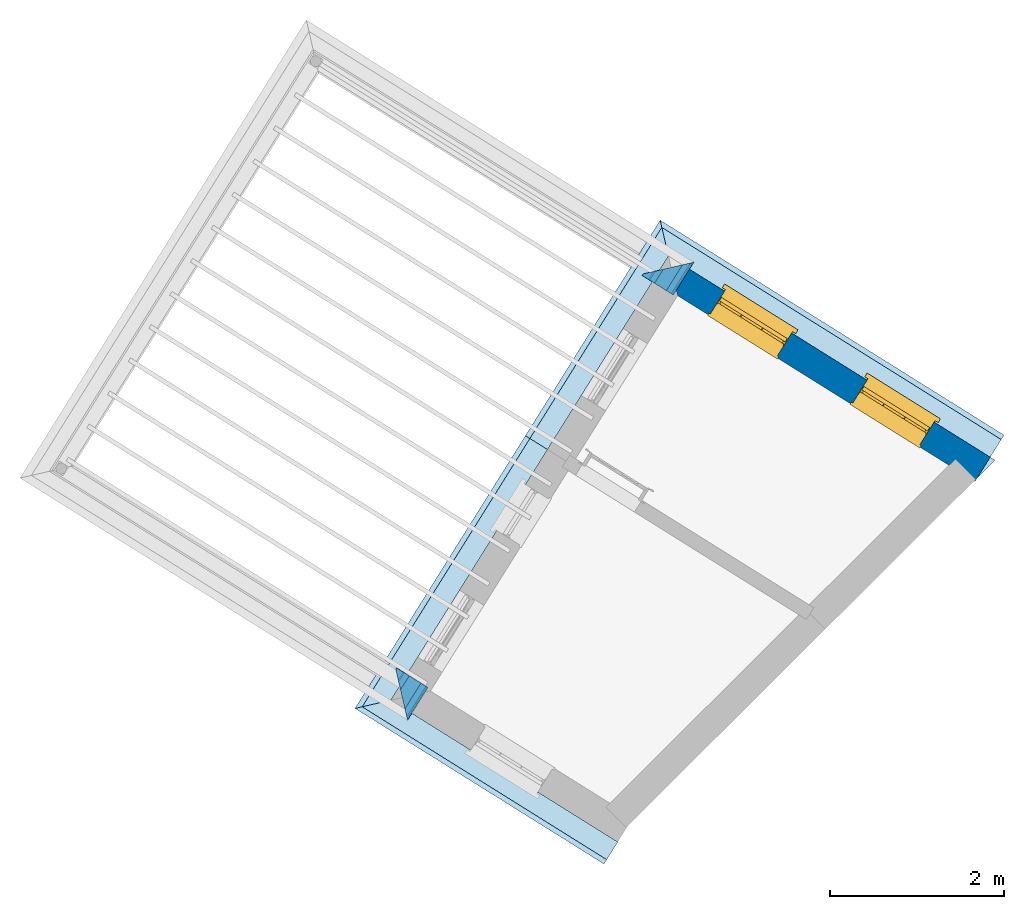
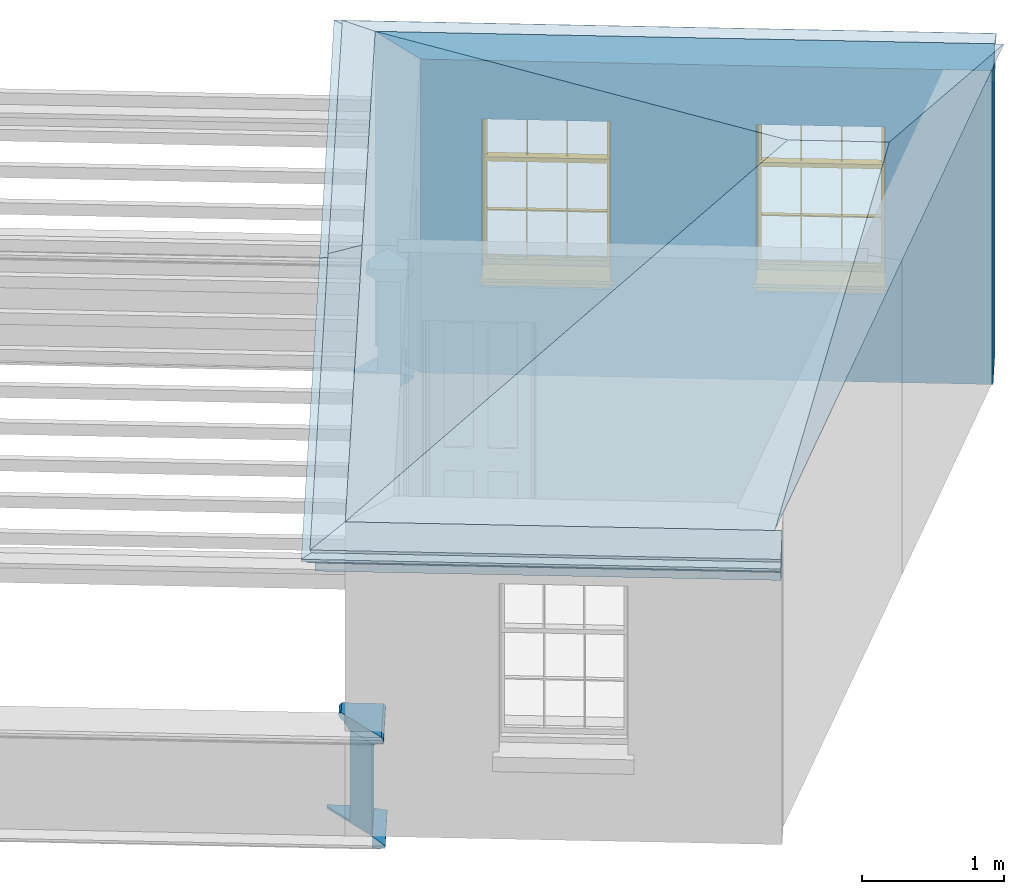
# One storey, part 6 of 6: 9 roofs, 7 walls, 2 windows, 2 openings.
"""IFC4 building model written with IfcOpenShell, lengths in metres."""

from ifc_helpers import new_model, si_unit, frame, origin, origin_with_axes, place, context, subcontext, project, spatial, polyline, outline, extrude, clip, halfspace, faceted_brep, source, transform, mapped, material, layer, layer_set, layer_usage, material_profile, profile_set, profile_usage, type_object, type_shapes, element, fill, save


model = new_model("IFC4")

# Units and contexts
model_context = context("Model", 3, world=origin_with_axes())
body_context = subcontext(model_context, "Body", "Model", "MODEL_VIEW")
ifc_project = project(units=[si_unit("PLANEANGLEUNIT", "RADIAN"), si_unit("MASSUNIT", "GRAM", prefix="KILO"), si_unit("FORCEUNIT", "NEWTON", prefix="KILO"), si_unit("LENGTHUNIT", "METRE"), si_unit("AREAUNIT", "SQUARE_METRE"), si_unit("VOLUMEUNIT", "CUBIC_METRE")], contexts=[model_context, model_context])

# Sites, building, storey
site_1_placement = place(None, origin_with_axes())
site_1 = spatial("IfcSite", under=ifc_project, at=site_1_placement, Name="Tamar")
site_2_placement = place(site_1_placement, origin_with_axes())
site_2 = spatial("IfcSite", under=site_1, at=site_2_placement, Name="Site plot-4", CompositionType="ELEMENT")
building_placement = place(None, origin_with_axes())
building = spatial("IfcBuilding", under=site_2, at=building_placement, Name="Building plot-4", CompositionType="ELEMENT")
storey_placement = place(None, frame((0.0, 0.0, 31.4), z_axis=(0.0, 0.0, 1.0), x_axis=(1.0, 0.0, 0.0)))
storey = spatial("IfcBuildingStorey", under=building, at=storey_placement, Name="plot-4 2", CompositionType="ELEMENT", Elevation=31.4)

# Wall, openings, windows
ifc_material = material(Name="Masonry")
ifc_layer = layer(ifc_material, 0.33, ventilated=False)
ifc_layer_set = layer_set([ifc_layer], Name="exterior_0.08_0.25")
ifc_layer_usage = layer_usage(ifc_layer_set, "AXIS2", "POSITIVE", -0.25)
wall_type_1 = type_object("IfcWallType", Name="exterior_0.08_0.25", PredefinedType="SOLIDWALL", material=ifc_layer_set)
wall_1_placement = place(storey_placement, frame((228.178329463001, 281.531399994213, 0.0), z_axis=(0.0, 0.0, 1.0), x_axis=(-0.847981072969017, 0.530026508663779, 0.0)))
wall_1 = element("IfcWall", 1, at=wall_1_placement, inside=storey, type_object=wall_type_1, material=ifc_layer_usage, Name="exterior", context=body_context, shape_type="SweptSolid", body=[
    extrude(outline(polyline([(-0.249999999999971, 0.0799999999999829), (-0.249999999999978, -0.250000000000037), (4.11736989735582, -0.250000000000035), (3.78736989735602, 0.0800000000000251), (-0.249999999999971, 0.0799999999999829)])), origin_with_axes(), (0.0, 0.0, 1.0), 2.7),
])
opening_1_placement = place(wall_1_placement, frame((0.511842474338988, 0.0, 0.75)))
opening_1 = element("IfcOpeningElement", 2, at=opening_1_placement, cuts=wall_1, Name="My Opening", ObjectType="Opening", context=body_context, shape_type="SweptSolid", body=[
    extrude(outline(polyline([(0.0, -0.269999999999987), (0.91, -0.270000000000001), (0.910000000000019, 1.09999999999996), (1.94289029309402e-14, 1.09999999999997), (0.0, -0.269999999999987)])), origin_with_axes(), (0.0, 0.0, 1.0), 1.445),
])
opening_2_placement = place(wall_1_placement, frame((2.44552742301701, 0.0, 0.75)))
opening_2 = element("IfcOpeningElement", 3, at=opening_2_placement, cuts=wall_1, Name="My Opening", ObjectType="Opening", context=body_context, shape_type="SweptSolid", body=[
    extrude(outline(polyline([(0.0, -0.270000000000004), (0.91, -0.270000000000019), (0.910000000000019, 1.09999999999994), (1.90958360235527e-14, 1.09999999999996), (0.0, -0.270000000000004)])), origin_with_axes(), (0.0, 0.0, 1.0), 1.445),
])
window_type = type_object("IfcWindowType", Name="sash_shorter", PartitioningType="DOUBLE_PANEL_HORIZONTAL", PredefinedType="NOTDEFINED")
shared_shape = source(origin(), body_context, "Body", "Brep", [
    faceted_brep([(0.876875, 0.145, 0.999097), (0.876875, 0.145, 1.411875), (0.9, 0.145, 1.435), (0.033125, 0.145, 1.411875), (0.033125, 0.145, 0.999097), (0.01, 0.145, 1.435), (0.033125, 0.115, 1.411875), (0.01, 0.115, 1.435), (0.033125, 0.115, 0.999097), (0.876875, 0.115, 1.411875), (0.876875, 0.115, 0.999097), (0.9, 0.115, 1.435), (0.033125, 0.145, 0.960972), (0.01, 0.145, 0.960972), (0.033125, 0.145, 0.548195), (0.876875, 0.145, 0.960972), (0.876875, 0.145, 0.548195), (0.9, 0.145, 0.960972), (0.876875, 0.145, 0.538195), (0.876875, 0.145, 0.125417), (0.9, 0.145, 0.077167), (0.033125, 0.145, 0.125417), (0.033125, 0.145, 0.538195), (0.01, 0.145, 0.077167), (0.9, 0.115, 0.960972), (0.01, 0.115, 0.960972), (-0.0425, 0.0, 0.01), (-0.0425, -0.05, 0.001667), (0.0, 0.0, 0.01), (0.9525, 0.0, 0.01), (0.91, 0.0, 0.01), (0.9525, -0.05, 0.001667), (-0.02, 0.33, 0.077167), (0.0, 0.33, 0.077167), (-0.02, 0.36, 0.077167), (0.0, 0.19, 0.077167), (0.01, 0.19, 0.077167), (0.91, 0.19, 0.077167), (0.91, 0.33, 0.077167), (0.9, 0.19, 0.077167), (0.93, 0.33, 0.077167), (0.93, 0.36, 0.077167), (0.01, 0.145, 0.999097), (0.01, 0.175, 0.999097), (0.9, 0.145, 0.999097), (0.9, 0.175, 0.999097), (0.876875, 0.175, 0.125417), (0.876875, 0.175, 0.538195), (0.9, 0.175, 0.077167), (0.876875, 0.175, 0.548195), (0.876875, 0.175, 0.960972), (0.033125, 0.175, 0.125417), (0.01, 0.175, 0.077167), (0.033125, 0.175, 0.538195), (0.033125, 0.175, 0.960972), (0.033125, 0.175, 0.548195), (-0.02, 0.33, 0.052167), (-0.02, 0.36, 0.052167), (0.93, 0.36, 0.052167), (0.93, 0.33, 0.052167), (0.91, 0.33, 0.052167), (0.0, 0.33, 0.052167), (0.91, 0.1, 0.026667), (0.0, 0.1, 0.026667), (-0.0425, -0.05, -0.123333), (0.9525, -0.05, -0.123333), (-0.0425, 0.0, -0.123333), (0.9525, 0.0, -0.123333), (0.01, 0.19, 1.435), (0.9, 0.19, 1.435), (0.0, 0.19, 1.445), (0.91, 0.19, 1.445), (0.01, 0.1, 0.077167), (0.9, 0.1, 0.077167), (0.592292, 0.145, 0.125417), (0.592292, 0.175, 0.125417), (0.317708, 0.175, 0.125417), (0.317708, 0.145, 0.125417), (0.592292, 0.145, 0.548195), (0.317708, 0.145, 0.548195), (0.317708, 0.145, 0.538195), (0.592292, 0.145, 0.538195), (0.592292, 0.175, 0.548195), (0.317708, 0.175, 0.548195), (0.602292, 0.175, 0.548195), (0.602292, 0.145, 0.548195), (0.317708, 0.175, 0.538195), (0.307708, 0.175, 0.125417), (0.307708, 0.175, 0.538195), (0.602292, 0.175, 0.538195), (0.602292, 0.175, 0.125417), (0.592292, 0.175, 0.538195), (0.307708, 0.175, 0.548195), (0.317708, 0.175, 0.960972), (0.307708, 0.175, 0.960972), (0.602292, 0.175, 0.960972), (0.592292, 0.175, 0.960972), (0.307708, 0.145, 0.538195), (0.307708, 0.145, 0.125417), (0.307708, 0.145, 0.548195), (0.307708, 0.145, 0.960972), (0.592292, 0.145, 0.960972), (0.317708, 0.145, 0.960972), (0.602292, 0.145, 0.960972), (0.602292, 0.145, 0.538195), (0.602292, 0.145, 0.125417), (0.317708, 0.115, 1.411875), (0.307708, 0.115, 1.411875), (0.307708, 0.115, 0.999097), (0.317708, 0.115, 0.999097), (0.602292, 0.115, 1.411875), (0.592292, 0.115, 1.411875), (0.592292, 0.115, 0.999097), (0.602292, 0.115, 0.999097), (0.317708, 0.145, 0.999097), (0.307708, 0.145, 0.999097), (0.307708, 0.145, 1.411875), (0.317708, 0.145, 1.411875), (0.602292, 0.145, 0.999097), (0.592292, 0.145, 0.999097), (0.592292, 0.145, 1.411875), (0.602292, 0.145, 1.411875), (0.91, 0.1, 1.445), (0.9, 0.1, 1.435), (0.01, 0.1, 1.435), (0.0, 0.1, 1.445), (0.91, 0.0, 0.0), (0.0, 0.0, 0.0), (0.91, 0.33, 0.0), (0.0, 0.33, 0.0)], [[[0, 1, 2]], [[3, 4, 5]], [[6, 7, 8]], [[9, 10, 11]], [[12, 13, 14]], [[15, 16, 17]], [[18, 19, 20]], [[21, 22, 23]], [[24, 15, 17]], [[13, 12, 25]], [[26, 27, 28]], [[29, 30, 31]], [[32, 33, 34]], [[35, 36, 33]], [[37, 38, 39]], [[40, 41, 38]], [[42, 4, 43]], [[44, 45, 0]], [[46, 47, 48]], [[49, 50, 45]], [[51, 52, 53]], [[54, 55, 43]], [[38, 33, 36, 39]], [[41, 34, 33, 38]], [[56, 32, 34, 57]], [[57, 34, 41, 58]], [[58, 41, 40, 59]], [[57, 58, 60, 61]], [[52, 48, 39, 36]], [[62, 63, 28, 30]], [[27, 31, 30, 28]], [[27, 64, 65, 31]], [[66, 67, 65, 64]], [[2, 5, 68, 69]], [[68, 70, 71, 69]], [[20, 23, 72, 73]], [[73, 72, 63, 62]], [[74, 75, 76, 77]], [[78, 79, 80, 81]], [[78, 82, 83, 79]], [[16, 49, 84, 85]], [[86, 76, 87, 88]], [[89, 90, 75, 91]], [[92, 88, 53, 55]], [[82, 91, 86, 83]], [[93, 83, 92, 94]], [[95, 84, 82, 96]], [[89, 84, 49, 47]], [[97, 88, 87, 98]], [[22, 53, 88, 97]], [[81, 91, 75, 74]], [[80, 86, 91, 81]], [[77, 76, 86, 80]], [[99, 92, 55, 14]], [[100, 94, 92, 99]], [[101, 96, 82, 78]], [[79, 83, 93, 102]], [[85, 84, 95, 103]], [[104, 89, 47, 18]], [[105, 90, 89, 104]], [[104, 18, 16, 85]], [[80, 97, 98, 77]], [[104, 81, 74, 105]], [[103, 101, 78, 85]], [[99, 14, 22, 97]], [[102, 100, 99, 79]], [[106, 107, 108, 109]], [[110, 111, 112, 113]], [[114, 115, 116, 117]], [[118, 119, 120, 121]], [[107, 116, 115, 108]], [[111, 120, 119, 112]], [[109, 114, 117, 106]], [[113, 118, 121, 110]], [[85, 78, 81, 104]], [[84, 89, 91, 82]], [[83, 86, 88, 92]], [[79, 99, 97, 80]], [[109, 112, 119, 114]], [[102, 93, 96, 101]], [[106, 117, 120, 111]], [[98, 87, 51, 21]], [[6, 3, 116, 107]], [[110, 121, 1, 9]], [[19, 46, 90, 105]], [[26, 66, 64, 27]], [[29, 31, 65, 67]], [[25, 24, 112, 109]], [[11, 7, 106, 111]], [[75, 48, 52, 76]], [[43, 45, 96, 93]], [[45, 43, 114, 119]], [[5, 2, 120, 117]], [[24, 25, 102, 101]], [[42, 5, 4]], [[2, 44, 0]], [[49, 45, 48, 47]], [[52, 43, 55, 53]], [[14, 13, 23, 22]], [[20, 17, 16, 18]], [[24, 11, 10]], [[25, 8, 7]], [[8, 4, 3, 6]], [[9, 1, 0, 10]], [[15, 50, 49, 16]], [[18, 47, 46, 19]], [[21, 51, 53, 22]], [[14, 55, 54, 12]], [[44, 2, 69, 45]], [[68, 5, 42, 43]], [[36, 35, 70, 68]], [[39, 69, 71, 37]], [[62, 122, 123, 73]], [[63, 72, 124, 125]], [[8, 108, 115, 4]], [[113, 10, 0, 118]], [[94, 100, 12, 54]], [[17, 20, 73, 24]], [[72, 23, 13, 25]], [[52, 36, 68, 43]], [[69, 39, 48, 45]], [[11, 24, 73, 123]], [[7, 124, 72, 25]], [[23, 77, 98]], [[98, 21, 23]], [[105, 74, 20]], [[20, 19, 105]], [[20, 74, 77, 23]], [[113, 112, 24]], [[24, 10, 113]], [[25, 109, 108]], [[108, 8, 25]], [[110, 9, 11]], [[11, 111, 110]], [[7, 6, 107]], [[107, 106, 7]], [[5, 117, 116]], [[116, 3, 5]], [[121, 120, 2]], [[2, 1, 121]], [[11, 123, 124, 7]], [[122, 125, 124, 123]], [[43, 93, 94]], [[94, 54, 43]], [[96, 45, 95]], [[50, 95, 45]], [[15, 103, 95, 50]], [[48, 75, 90]], [[90, 46, 48]], [[87, 76, 52]], [[52, 51, 87]], [[103, 15, 24]], [[24, 101, 103]], [[100, 102, 25]], [[25, 12, 100]], [[115, 114, 43]], [[43, 4, 115]], [[118, 0, 45]], [[45, 119, 118]], [[71, 70, 125, 122]], [[70, 35, 63, 125]], [[122, 62, 37, 71]], [[126, 67, 66, 127]], [[60, 58, 59]], [[38, 60, 59, 40]], [[61, 56, 57]], [[32, 56, 61, 33]], [[61, 60, 128, 129]], [[62, 60, 38, 37]], [[126, 128, 60, 62]], [[33, 61, 63, 35]], [[61, 129, 127, 63]], [[128, 126, 127, 129]], [[28, 127, 66, 26]], [[63, 127, 28]], [[29, 67, 126, 30]], [[30, 126, 62]]]),
])
type_shapes(window_type, [shared_shape])
window_1_placement = place(storey_placement, frame((227.887403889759, 282.031644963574, 0.75), z_axis=(0.0, 0.0, 1.0), x_axis=(-0.771662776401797, 0.482324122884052, 0.0)))
window_1 = element("IfcWindow", 4, at=window_1_placement, inside=storey, type_object=window_type, Name="circulation outside window", OverallHeight=1.445, OverallWidth=0.91, context=body_context, shape_type="MappedRepresentation", body=[
    mapped(shared_shape, transform((0.0, 0.0, 0.0), scale=1.0)),
])
fill(opening_1, window_1)
window_2_placement = place(storey_placement, frame((226.247675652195, 283.056549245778, 0.75), z_axis=(0.0, 0.0, 1.0), x_axis=(-0.771662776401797, 0.482324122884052, 0.0)))
window_2 = element("IfcWindow", 5, at=window_2_placement, inside=storey, type_object=window_type, Name="circulation outside window", OverallHeight=1.445, OverallWidth=0.91, context=body_context, shape_type="MappedRepresentation", body=[
    mapped(shared_shape, transform((0.0, 0.0, 0.0), scale=1.0)),
])
fill(opening_2, window_2)

# Walls
ifc_material_profile_1 = material_profile(None, outline(polyline([(0.25, 0.0), (0.25, 0.795), (0.09, 0.795), (0.09, 0.02), (-0.08, 0.02), (-0.08, 0.0), (0.25, 0.0)])))
ifc_profile_set_1 = profile_set([ifc_material_profile_1])
ifc_profile_usage_1 = profile_usage(ifc_profile_set_1)
wall_type_2 = type_object("IfcWallType", Name="parapet_0", PredefinedType="PARAPET", material=ifc_profile_set_1)
wall_2_placement = place(storey_placement, frame((225.166025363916, 284.593497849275, 0.0), z_axis=(-0.530026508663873, -0.847981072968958, 0.0), x_axis=(0.847981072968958, -0.530026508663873, 0.0)))
element("IfcWall", 6, at=wall_2_placement, inside=storey, type_object=wall_type_2, material=ifc_profile_usage_1, Name="parapet_0", context=body_context, shape_type="Clipping", body=[
    clip(clip(extrude(outline(polyline([(0.25, 0.0), (0.25, 0.795), (0.09, 0.795), (0.09, 0.02), (-0.08, 0.02), (-0.08, 0.0), (0.25, 0.0)])), origin_with_axes(), (0.0, 0.0, 1.0), 2.09999999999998), halfspace(frame((0.0, 0.0, 1.09999999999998), z_axis=(-8.94301653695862e-15, 0.0, -1.0), x_axis=(0.0, 1.0, 0.0)), True)), halfspace(frame((0.0, 0.0, 1.0), z_axis=(-0.707106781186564, 0.0, -0.707106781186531), x_axis=(0.0, 1.0, 0.0)), False)),
])
ifc_profile_usage_2 = profile_usage(ifc_profile_set_1)
wall_3_placement = place(storey_placement, frame((222.2890629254, 279.990690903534, 0.0), z_axis=(-0.530026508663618, -0.847981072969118, 0.0), x_axis=(0.847981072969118, -0.530026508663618, 0.0)))
element("IfcWall", 7, at=wall_3_placement, inside=storey, type_object=wall_type_2, material=ifc_profile_usage_2, Name="parapet_0", context=body_context, shape_type="Clipping", body=[
    clip(clip(extrude(outline(polyline([(0.25, 0.0), (0.25, 0.795), (0.09, 0.795), (0.09, 0.02), (-0.08, 0.02), (-0.08, 0.0), (0.25, 0.0)])), origin_with_axes(), (0.0, 0.0, 1.0), 2.10000000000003), halfspace(frame((0.0, 0.0, 1.10000000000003), z_axis=(0.707106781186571, 0.0, -0.707106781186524), x_axis=(0.0, 1.0, 0.0)), True)), halfspace(frame((0.0, 0.0, 1.0), z_axis=(2.4141629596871e-14, 0.0, -1.0), x_axis=(0.0, 1.0, 0.0)), False)),
])
ifc_material_profile_2 = material_profile(None, outline(polyline([(0.265, 0.795), (0.268, 0.807), (0.274, 0.816), (0.283, 0.822), (0.295, 0.825), (0.295, 0.84), (0.305, 0.84), (0.317, 0.842), (0.326, 0.849), (0.333, 0.858), (0.335, 0.87), (0.333, 0.882), (0.326, 0.891), (0.317, 0.898), (0.305, 0.9), (0.035, 0.9), (0.023, 0.898), (0.014, 0.891), (0.007, 0.882), (0.005, 0.87), (0.007, 0.858), (0.014, 0.849), (0.023, 0.842), (0.035, 0.84), (0.045, 0.84), (0.045, 0.825), (0.057, 0.822), (0.066, 0.816), (0.072, 0.807), (0.075, 0.795), (0.265, 0.795)])))
ifc_profile_set_2 = profile_set([ifc_material_profile_2])
ifc_profile_usage_3 = profile_usage(ifc_profile_set_2)
wall_type_3 = type_object("IfcWallType", Name="parapet_1", PredefinedType="PARAPET", material=ifc_profile_set_2)
wall_4_placement = place(storey_placement, frame((225.166025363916, 284.593497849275, 0.0), z_axis=(-0.530026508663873, -0.847981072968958, 0.0), x_axis=(0.847981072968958, -0.530026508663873, 0.0)))
element("IfcWall", 8, at=wall_4_placement, inside=storey, type_object=wall_type_3, material=ifc_profile_usage_3, Name="parapet_1", context=body_context, shape_type="Clipping", body=[
    clip(clip(extrude(outline(polyline([(0.265, 0.795), (0.268, 0.807), (0.274, 0.816), (0.283, 0.822), (0.295, 0.825), (0.295, 0.84), (0.305, 0.84), (0.317, 0.842), (0.326, 0.849), (0.333, 0.858), (0.335, 0.87), (0.333, 0.882), (0.326, 0.891), (0.317, 0.898), (0.305, 0.9), (0.035, 0.9), (0.023, 0.898), (0.014, 0.891), (0.007, 0.882), (0.005, 0.87), (0.007, 0.858), (0.014, 0.849), (0.023, 0.842), (0.035, 0.84), (0.045, 0.84), (0.045, 0.825), (0.057, 0.822), (0.066, 0.816), (0.072, 0.807), (0.075, 0.795), (0.265, 0.795)])), origin_with_axes(), (0.0, 0.0, 1.0), 2.09999999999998), halfspace(frame((0.0, 0.0, 1.09999999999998), z_axis=(-8.94301653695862e-15, 0.0, -1.0), x_axis=(0.0, 1.0, 0.0)), True)), halfspace(frame((0.0, 0.0, 1.0), z_axis=(-0.707106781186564, 0.0, -0.707106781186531), x_axis=(0.0, 1.0, 0.0)), False)),
])
ifc_profile_usage_4 = profile_usage(ifc_profile_set_2)
wall_5_placement = place(storey_placement, frame((222.2890629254, 279.990690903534, 0.0), z_axis=(-0.530026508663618, -0.847981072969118, 0.0), x_axis=(0.847981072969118, -0.530026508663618, 0.0)))
element("IfcWall", 9, at=wall_5_placement, inside=storey, type_object=wall_type_3, material=ifc_profile_usage_4, Name="parapet_1", context=body_context, shape_type="Clipping", body=[
    clip(clip(extrude(outline(polyline([(0.265, 0.795), (0.268, 0.807), (0.274, 0.816), (0.283, 0.822), (0.295, 0.825), (0.295, 0.84), (0.305, 0.84), (0.317, 0.842), (0.326, 0.849), (0.333, 0.858), (0.335, 0.87), (0.333, 0.882), (0.326, 0.891), (0.317, 0.898), (0.305, 0.9), (0.035, 0.9), (0.023, 0.898), (0.014, 0.891), (0.007, 0.882), (0.005, 0.87), (0.007, 0.858), (0.014, 0.849), (0.023, 0.842), (0.035, 0.84), (0.045, 0.84), (0.045, 0.825), (0.057, 0.822), (0.066, 0.816), (0.072, 0.807), (0.075, 0.795), (0.265, 0.795)])), origin_with_axes(), (0.0, 0.0, 1.0), 2.10000000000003), halfspace(frame((0.0, 0.0, 1.10000000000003), z_axis=(0.707106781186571, 0.0, -0.707106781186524), x_axis=(0.0, 1.0, 0.0)), True)), halfspace(frame((0.0, 0.0, 1.0), z_axis=(2.4141629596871e-14, 0.0, -1.0), x_axis=(0.0, 1.0, 0.0)), False)),
])
ifc_material_profile_3 = material_profile(None, outline(polyline([(0.25, -0.1), (0.265, -0.1), (0.265, -0.085), (0.278, -0.084), (0.289, -0.081), (0.301, -0.074), (0.309, -0.065), (0.315, -0.055), (0.324, -0.044), (0.334, -0.038), (0.345, -0.035), (0.345, -0.015), (0.25, 0.0), (0.25, -0.1)])))
ifc_profile_set_3 = profile_set([ifc_material_profile_3])
ifc_profile_usage_5 = profile_usage(ifc_profile_set_3)
wall_type_4 = type_object("IfcWallType", Name="parapet_2", PredefinedType="PARAPET", material=ifc_profile_set_3)
wall_6_placement = place(storey_placement, frame((225.166025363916, 284.593497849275, 0.0), z_axis=(-0.530026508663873, -0.847981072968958, 0.0), x_axis=(0.847981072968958, -0.530026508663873, 0.0)))
element("IfcWall", 10, at=wall_6_placement, inside=storey, type_object=wall_type_4, material=ifc_profile_usage_5, Name="parapet_2", context=body_context, shape_type="Clipping", body=[
    clip(clip(extrude(outline(polyline([(0.25, -0.1), (0.265, -0.1), (0.265, -0.085), (0.278, -0.084), (0.289, -0.081), (0.301, -0.074), (0.309, -0.065), (0.315, -0.055), (0.324, -0.044), (0.334, -0.038), (0.345, -0.035), (0.345, -0.015), (0.25, 0.0), (0.25, -0.1)])), origin_with_axes(), (0.0, 0.0, 1.0), 2.09999999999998), halfspace(frame((0.0, 0.0, 1.09999999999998), z_axis=(-8.94301653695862e-15, 0.0, -1.0), x_axis=(0.0, 1.0, 0.0)), True)), halfspace(frame((0.0, 0.0, 1.0), z_axis=(-0.707106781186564, 0.0, -0.707106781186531), x_axis=(0.0, 1.0, 0.0)), False)),
])
ifc_profile_usage_6 = profile_usage(ifc_profile_set_3)
wall_7_placement = place(storey_placement, frame((222.2890629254, 279.990690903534, 0.0), z_axis=(-0.530026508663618, -0.847981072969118, 0.0), x_axis=(0.847981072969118, -0.530026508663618, 0.0)))
element("IfcWall", 11, at=wall_7_placement, inside=storey, type_object=wall_type_4, material=ifc_profile_usage_6, Name="parapet_2", context=body_context, shape_type="Clipping", body=[
    clip(clip(extrude(outline(polyline([(0.25, -0.1), (0.265, -0.1), (0.265, -0.085), (0.278, -0.084), (0.289, -0.081), (0.301, -0.074), (0.309, -0.065), (0.315, -0.055), (0.324, -0.044), (0.334, -0.038), (0.345, -0.035), (0.345, -0.015), (0.25, 0.0), (0.25, -0.1)])), origin_with_axes(), (0.0, 0.0, 1.0), 2.10000000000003), halfspace(frame((0.0, 0.0, 1.10000000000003), z_axis=(0.707106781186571, 0.0, -0.707106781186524), x_axis=(0.0, 1.0, 0.0)), True)), halfspace(frame((0.0, 0.0, 1.0), z_axis=(2.4141629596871e-14, 0.0, -1.0), x_axis=(0.0, 1.0, 0.0)), False)),
])

# Roofs
ifc_material_profile_4 = material_profile(None, outline(polyline([(0.25, -0.11), (0.25, -0.33), (0.265, -0.33), (0.268, -0.318), (0.274, -0.309), (0.283, -0.303), (0.295, -0.3), (0.295, -0.285), (0.455, -0.285), (0.455, -0.205), (0.47, -0.205), (0.47, -0.19), (0.483, -0.189), (0.494, -0.186), (0.506, -0.179), (0.514, -0.17), (0.52, -0.16), (0.529, -0.149), (0.539, -0.143), (0.55, -0.14), (0.55, -0.12), (0.48, -0.11), (0.25, -0.11)])))
ifc_profile_set_4 = profile_set([ifc_material_profile_4])
ifc_profile_usage_7 = profile_usage(ifc_profile_set_4)
roof_type_1 = type_object("IfcRoofType", Name="eaves_0", PredefinedType="FREEFORM", material=ifc_profile_set_4)
roof_1_placement = place(storey_placement, frame((224.050891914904, 284.111235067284, 2.7), z_axis=(0.847981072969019, -0.530026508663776, 0.0), x_axis=(0.530026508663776, 0.847981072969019, 0.0)))
element("IfcRoof", 12, at=roof_1_placement, inside=storey, type_object=roof_type_1, material=ifc_profile_usage_7, Name="eaves_0", context=body_context, shape_type="Clipping", body=[
    clip(clip(extrude(outline(polyline([(0.25, -0.11), (0.25, -0.33), (0.265, -0.33), (0.268, -0.318), (0.274, -0.309), (0.283, -0.303), (0.295, -0.3), (0.295, -0.285), (0.455, -0.285), (0.455, -0.205), (0.47, -0.205), (0.47, -0.19), (0.483, -0.189), (0.494, -0.186), (0.506, -0.179), (0.514, -0.17), (0.52, -0.16), (0.529, -0.149), (0.539, -0.143), (0.55, -0.14), (0.55, -0.12), (0.48, -0.11), (0.25, -0.11)])), origin_with_axes(), (0.0, 0.0, 1.0), 6.11736989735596), halfspace(frame((0.0, 0.0, 5.11736989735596), z_axis=(1.81464252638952e-14, 0.0, -1.0), x_axis=(0.0, 1.0, 0.0)), True)), halfspace(frame((0.0, 0.0, 1.0), z_axis=(-0.707106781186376, 0.0, -0.707106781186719), x_axis=(0.0, 1.0, 0.0)), False)),
])
ifc_profile_usage_8 = profile_usage(ifc_profile_set_4)
roof_2_placement = place(storey_placement, frame((223.109560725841, 280.718516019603, 2.7), z_axis=(0.530026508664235, 0.847981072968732, 0.0), x_axis=(-0.847981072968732, 0.530026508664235, 0.0)))
element("IfcRoof", 13, at=roof_2_placement, inside=storey, type_object=roof_type_1, material=ifc_profile_usage_8, Name="eaves_0", context=body_context, shape_type="Clipping", body=[
    clip(clip(extrude(outline(polyline([(0.25, -0.11), (0.25, -0.33), (0.265, -0.33), (0.268, -0.318), (0.274, -0.309), (0.283, -0.303), (0.295, -0.3), (0.295, -0.285), (0.455, -0.285), (0.455, -0.205), (0.47, -0.205), (0.47, -0.19), (0.483, -0.189), (0.494, -0.186), (0.506, -0.179), (0.514, -0.17), (0.52, -0.16), (0.529, -0.149), (0.539, -0.143), (0.55, -0.14), (0.55, -0.12), (0.48, -0.11), (0.25, -0.11)])), origin_with_axes(), (0.0, 0.0, 1.0), 4.37589202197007), halfspace(frame((0.0, 0.0, 3.37589202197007), z_axis=(0.707106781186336, 0.0, -0.707106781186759), x_axis=(0.0, 1.0, 0.0)), True)), halfspace(frame((0.0, 0.0, 1.0), z_axis=(-2.5818406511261e-14, 0.0, -1.0), x_axis=(0.0, 1.0, 0.0)), False)),
])
ifc_profile_usage_9 = profile_usage(ifc_profile_set_4)
roof_3_placement = place(storey_placement, frame((221.438881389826, 278.045622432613, 2.7), z_axis=(0.53002650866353, 0.847981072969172, 0.0), x_axis=(-0.847981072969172, 0.53002650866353, 0.0)))
element("IfcRoof", 14, at=roof_3_placement, inside=storey, type_object=roof_type_1, material=ifc_profile_usage_9, Name="eaves_0", context=body_context, shape_type="Clipping", body=[
    clip(clip(extrude(outline(polyline([(0.25, -0.11), (0.25, -0.33), (0.265, -0.33), (0.268, -0.318), (0.274, -0.309), (0.283, -0.303), (0.295, -0.3), (0.295, -0.285), (0.455, -0.285), (0.455, -0.205), (0.47, -0.205), (0.47, -0.19), (0.483, -0.189), (0.494, -0.186), (0.506, -0.179), (0.514, -0.17), (0.52, -0.16), (0.529, -0.149), (0.539, -0.143), (0.55, -0.14), (0.55, -0.12), (0.48, -0.11), (0.25, -0.11)])), origin_with_axes(), (0.0, 0.0, 1.0), 5.15206750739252), halfspace(frame((0.0, 0.0, 4.15206750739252), z_axis=(8.04628415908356e-13, 0.0, -1.0), x_axis=(0.0, 1.0, 0.0)), True)), halfspace(frame((0.0, 0.0, 1.0), z_axis=(-0.707106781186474, 0.0, -0.707106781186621), x_axis=(0.0, 1.0, 0.0)), False)),
])
ifc_profile_usage_10 = profile_usage(ifc_profile_set_4)
roof_4_placement = place(storey_placement, frame((225.216533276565, 276.863690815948, 2.7), z_axis=(-0.847981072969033, 0.530026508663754, 0.0), x_axis=(-0.530026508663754, -0.847981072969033, 0.0)))
element("IfcRoof", 15, at=roof_4_placement, inside=storey, type_object=roof_type_1, material=ifc_profile_usage_10, Name="eaves_0", context=body_context, shape_type="Clipping", body=[
    clip(clip(extrude(outline(polyline([(0.25, -0.11), (0.25, -0.33), (0.265, -0.33), (0.268, -0.318), (0.274, -0.309), (0.283, -0.303), (0.295, -0.3), (0.295, -0.285), (0.455, -0.285), (0.455, -0.205), (0.47, -0.205), (0.47, -0.19), (0.483, -0.189), (0.494, -0.186), (0.506, -0.179), (0.514, -0.17), (0.52, -0.16), (0.529, -0.149), (0.539, -0.143), (0.55, -0.14), (0.55, -0.12), (0.48, -0.11), (0.25, -0.11)])), origin_with_axes(), (0.0, 0.0, 1.0), 4.82983238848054), halfspace(frame((0.0, 0.0, 3.82983238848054), z_axis=(0.707106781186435, 0.0, -0.70710678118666), x_axis=(0.0, 1.0, 0.0)), True)), halfspace(frame((0.0, 0.0, 1.0), z_axis=(-8.94301653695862e-15, 0.0, -1.0), x_axis=(0.0, 1.0, 0.0)), False)),
])
ifc_material_profile_5 = material_profile(None, outline(polyline([(0.25, -0.11), (0.48, -0.11), (0.49, -0.08), (0.25, 0.0), (0.25, -0.11)])))
ifc_profile_set_5 = profile_set([ifc_material_profile_5])
ifc_profile_usage_11 = profile_usage(ifc_profile_set_5)
roof_type_2 = type_object("IfcRoofType", Name="eaves_1", PredefinedType="FREEFORM", material=ifc_profile_set_5)
roof_5_placement = place(storey_placement, frame((224.050891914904, 284.111235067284, 2.7), z_axis=(0.847981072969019, -0.530026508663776, 0.0), x_axis=(0.530026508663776, 0.847981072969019, 0.0)))
element("IfcRoof", 16, at=roof_5_placement, inside=storey, type_object=roof_type_2, material=ifc_profile_usage_11, Name="eaves_1", context=body_context, shape_type="Clipping", body=[
    clip(clip(extrude(outline(polyline([(0.25, -0.11), (0.48, -0.11), (0.49, -0.08), (0.25, 0.0), (0.25, -0.11)])), origin_with_axes(), (0.0, 0.0, 1.0), 6.11736989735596), halfspace(frame((0.0, 0.0, 5.11736989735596), z_axis=(1.81464252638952e-14, 0.0, -1.0), x_axis=(0.0, 1.0, 0.0)), True)), halfspace(frame((0.0, 0.0, 1.0), z_axis=(-0.707106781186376, 0.0, -0.707106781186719), x_axis=(0.0, 1.0, 0.0)), False)),
])
ifc_profile_usage_12 = profile_usage(ifc_profile_set_5)
roof_6_placement = place(storey_placement, frame((223.109560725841, 280.718516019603, 2.7), z_axis=(0.530026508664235, 0.847981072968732, 0.0), x_axis=(-0.847981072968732, 0.530026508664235, 0.0)))
element("IfcRoof", 17, at=roof_6_placement, inside=storey, type_object=roof_type_2, material=ifc_profile_usage_12, Name="eaves_1", context=body_context, shape_type="Clipping", body=[
    clip(clip(extrude(outline(polyline([(0.25, -0.11), (0.48, -0.11), (0.49, -0.08), (0.25, 0.0), (0.25, -0.11)])), origin_with_axes(), (0.0, 0.0, 1.0), 4.37589202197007), halfspace(frame((0.0, 0.0, 3.37589202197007), z_axis=(0.707106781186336, 0.0, -0.707106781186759), x_axis=(0.0, 1.0, 0.0)), True)), halfspace(frame((0.0, 0.0, 1.0), z_axis=(-2.5818406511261e-14, 0.0, -1.0), x_axis=(0.0, 1.0, 0.0)), False)),
])
ifc_profile_usage_13 = profile_usage(ifc_profile_set_5)
roof_7_placement = place(storey_placement, frame((221.438881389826, 278.045622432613, 2.7), z_axis=(0.53002650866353, 0.847981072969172, 0.0), x_axis=(-0.847981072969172, 0.53002650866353, 0.0)))
element("IfcRoof", 18, at=roof_7_placement, inside=storey, type_object=roof_type_2, material=ifc_profile_usage_13, Name="eaves_1", context=body_context, shape_type="Clipping", body=[
    clip(clip(extrude(outline(polyline([(0.25, -0.11), (0.48, -0.11), (0.49, -0.08), (0.25, 0.0), (0.25, -0.11)])), origin_with_axes(), (0.0, 0.0, 1.0), 5.15206750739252), halfspace(frame((0.0, 0.0, 4.15206750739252), z_axis=(8.04628415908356e-13, 0.0, -1.0), x_axis=(0.0, 1.0, 0.0)), True)), halfspace(frame((0.0, 0.0, 1.0), z_axis=(-0.707106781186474, 0.0, -0.707106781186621), x_axis=(0.0, 1.0, 0.0)), False)),
])
ifc_profile_usage_14 = profile_usage(ifc_profile_set_5)
roof_8_placement = place(storey_placement, frame((225.216533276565, 276.863690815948, 2.7), z_axis=(-0.847981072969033, 0.530026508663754, 0.0), x_axis=(-0.530026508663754, -0.847981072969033, 0.0)))
element("IfcRoof", 19, at=roof_8_placement, inside=storey, type_object=roof_type_2, material=ifc_profile_usage_14, Name="eaves_1", context=body_context, shape_type="Clipping", body=[
    clip(clip(extrude(outline(polyline([(0.25, -0.11), (0.48, -0.11), (0.49, -0.08), (0.25, 0.0), (0.25, -0.11)])), origin_with_axes(), (0.0, 0.0, 1.0), 4.82983238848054), halfspace(frame((0.0, 0.0, 3.82983238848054), z_axis=(0.707106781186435, 0.0, -0.70710678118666), x_axis=(0.0, 1.0, 0.0)), True)), halfspace(frame((0.0, 0.0, 1.0), z_axis=(-8.94301653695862e-15, 0.0, -1.0), x_axis=(0.0, 1.0, 0.0)), False)),
])
roof_9_placement = place(building_placement, origin())
element("IfcRoof", 20, at=roof_9_placement, inside=storey, Name="Roof", PredefinedType="FREEFORM", context=body_context, shape_type="Brep", body=[
    faceted_brep([(221.624406, 278.814115, 34.1), (224.192343, 277.209038, 34.1), (226.385113, 279.392759, 35.348431), (225.777693, 279.772423, 35.348431), (228.577882, 281.576479, 34.1), (224.819384, 283.92571, 34.1)], [[[0, 1, 2, 3]], [[4, 5, 3, 2]], [[5, 4, 1, 0]], [[5, 0, 3]], [[1, 4, 2]]]),
])

save(model, "model.ifc")
